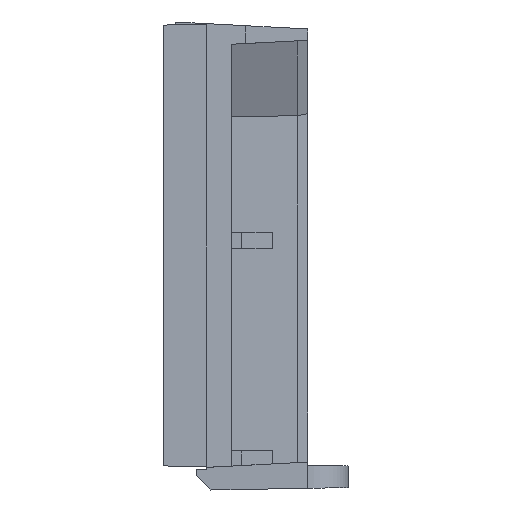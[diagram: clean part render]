
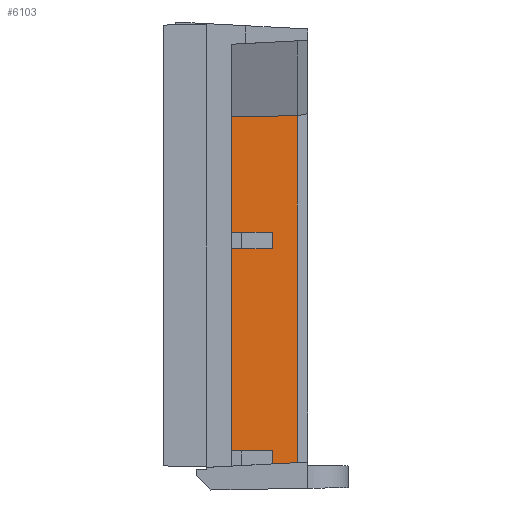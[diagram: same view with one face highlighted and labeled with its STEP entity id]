
A CAD part, front view. The second image highlights one B-rep face of the part: STEP entity #6103.
In plain terms, the highlighted planar face has unit normal (0.052, -0.999, 0).
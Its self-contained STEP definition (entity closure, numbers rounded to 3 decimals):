
#262=DIRECTION('',(-0.997,-0.052,-0.052));
#263=VECTOR('',#262,1.204);
#264=CARTESIAN_POINT('',(16.451,7.168,0.231));
#265=LINE('',#264,#263);
#1342=DIRECTION('',(0.,0.,-1.));
#1343=VECTOR('',#1342,5.6);
#1344=CARTESIAN_POINT('',(13.25,7.,17.));
#1345=LINE('',#1344,#1343);
#1358=DIRECTION('',(0.,0.,-1.));
#1359=VECTOR('',#1358,9.8);
#1360=CARTESIAN_POINT('',(13.25,7.,10.6));
#1361=LINE('',#1360,#1359);
#1920=DIRECTION('',(0.,0.,-1.));
#1921=VECTOR('',#1920,16.804);
#1922=CARTESIAN_POINT('',(16.451,7.168,17.034));
#1923=LINE('',#1922,#1921);
#1924=DIRECTION('',(0.,0.,1.));
#1925=VECTOR('',#1924,0.632);
#1926=CARTESIAN_POINT('',(15.25,7.105,0.168));
#1927=LINE('',#1926,#1925);
#1928=DIRECTION('',(0.999,0.052,0.));
#1929=VECTOR('',#1928,2.003);
#1930=CARTESIAN_POINT('',(13.25,7.,0.8));
#1931=LINE('',#1930,#1929);
#1932=DIRECTION('',(0.999,0.052,0.));
#1933=VECTOR('',#1932,2.003);
#1934=CARTESIAN_POINT('',(13.25,7.,10.6));
#1935=LINE('',#1934,#1933);
#1936=DIRECTION('',(0.,0.,-1.));
#1937=VECTOR('',#1936,0.8);
#1938=CARTESIAN_POINT('',(15.25,7.105,11.4));
#1939=LINE('',#1938,#1937);
#1940=DIRECTION('',(0.999,0.052,0.));
#1941=VECTOR('',#1940,2.003);
#1942=CARTESIAN_POINT('',(13.25,7.,11.4));
#1943=LINE('',#1942,#1941);
#1944=DIRECTION('',(0.999,0.052,0.011));
#1945=VECTOR('',#1944,3.205);
#1946=CARTESIAN_POINT('',(13.25,7.,17.));
#1947=LINE('',#1946,#1945);
#3198=CARTESIAN_POINT('',(13.25,7.,17.));
#3200=VERTEX_POINT('',#3198);
#3208=CARTESIAN_POINT('',(13.25,7.,11.4));
#3209=VERTEX_POINT('',#3208);
#3212=CARTESIAN_POINT('',(13.25,7.,10.6));
#3213=VERTEX_POINT('',#3212);
#3214=CARTESIAN_POINT('',(15.25,7.105,11.4));
#3215=VERTEX_POINT('',#3214);
#3216=CARTESIAN_POINT('',(15.25,7.105,10.6));
#3217=VERTEX_POINT('',#3216);
#3222=CARTESIAN_POINT('',(13.25,7.,0.8));
#3223=VERTEX_POINT('',#3222);
#3226=CARTESIAN_POINT('',(15.25,7.105,0.8));
#3227=VERTEX_POINT('',#3226);
#3302=CARTESIAN_POINT('',(15.25,7.105,0.168));
#3303=VERTEX_POINT('',#3302);
#3313=CARTESIAN_POINT('',(16.451,7.168,0.231));
#3315=VERTEX_POINT('',#3313);
#3316=CARTESIAN_POINT('',(16.451,7.168,17.034));
#3317=VERTEX_POINT('',#3316);
#6081=CARTESIAN_POINT('',(13.25,7.,-6.294));
#6082=DIRECTION('',(-0.052,0.999,0.));
#6083=DIRECTION('',(0.,0.,1.));
#6084=AXIS2_PLACEMENT_3D('',#6081,#6082,#6083);
#6085=PLANE('',#6084);
#6086=ORIENTED_EDGE('',*,*,#3827,.T.);
#6087=ORIENTED_EDGE('',*,*,#3871,.T.);
#6089=ORIENTED_EDGE('',*,*,#6088,.T.);
#6090=ORIENTED_EDGE('',*,*,#6053,.F.);
#6091=ORIENTED_EDGE('',*,*,#5130,.F.);
#6093=ORIENTED_EDGE('',*,*,#6092,.T.);
#6095=ORIENTED_EDGE('',*,*,#6094,.F.);
#6097=ORIENTED_EDGE('',*,*,#6096,.F.);
#6098=ORIENTED_EDGE('',*,*,#5122,.F.);
#6100=ORIENTED_EDGE('',*,*,#6099,.T.);
#6101=EDGE_LOOP('',(#6086,#6087,#6089,#6090,#6091,#6093,#6095,#6097,#6098,
#6100));
#6102=FACE_OUTER_BOUND('',#6101,.F.);
#6103=ADVANCED_FACE('',(#6102),#6085,.F.);
#3827=EDGE_CURVE('',#3317,#3315,#1923,.T.);
#3871=EDGE_CURVE('',#3315,#3303,#265,.T.);
#5122=EDGE_CURVE('',#3200,#3209,#1345,.T.);
#5130=EDGE_CURVE('',#3213,#3223,#1361,.T.);
#6053=EDGE_CURVE('',#3223,#3227,#1931,.T.);
#6088=EDGE_CURVE('',#3303,#3227,#1927,.T.);
#6092=EDGE_CURVE('',#3213,#3217,#1935,.T.);
#6094=EDGE_CURVE('',#3215,#3217,#1939,.T.);
#6096=EDGE_CURVE('',#3209,#3215,#1943,.T.);
#6099=EDGE_CURVE('',#3200,#3317,#1947,.T.);
